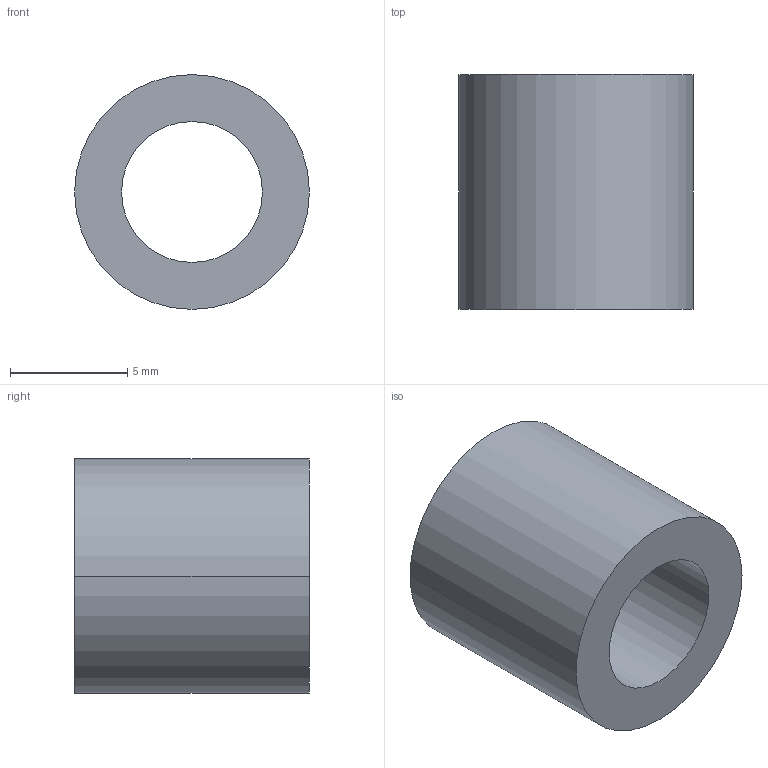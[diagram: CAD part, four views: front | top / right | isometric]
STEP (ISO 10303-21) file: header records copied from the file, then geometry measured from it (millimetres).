
FILE_DESCRIPTION (( 'STEP AP203' ), '1' );
FILE_NAME ('30800.WPP10D6.0.step', '2019-01-23T22:24:13', ( '' ), ( '' ), 'SwSTEP 2.0', 'SolidWorks 2017', '' );
FILE_SCHEMA (( 'CONFIG_CONTROL_DESIGN' ));
Length unit declared in the file: millimetre
Products named in the file (1): 30800.WPP10D6.0
Bounding box: 10 x 10 x 10 mm (x, y, z)
Volume: 492.5 mm3; surface area: 592.1 mm2
Topology: 1 solids, 1 shells, 8 faces, 16 edges, 10 vertices
Faces by surface type: cylinder 4, torus 2, plane 2
Entity records: 297 total; most frequent: DIRECTION 46, CARTESIAN_POINT 35, ORIENTED_EDGE 32, AXIS2_PLACEMENT_3D 21, EDGE_CURVE 16, CIRCLE 12, VERTEX_POINT 10, EDGE_LOOP 10
